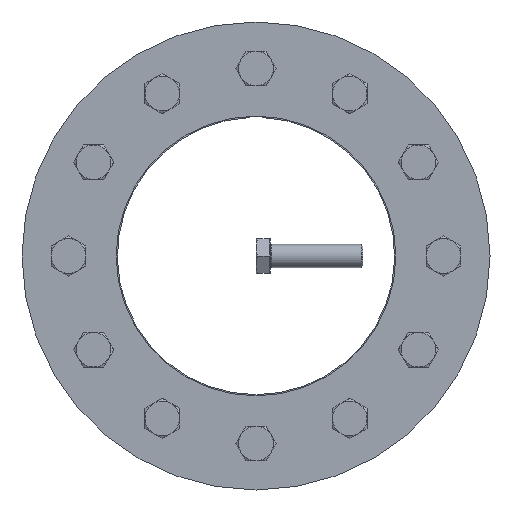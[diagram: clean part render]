
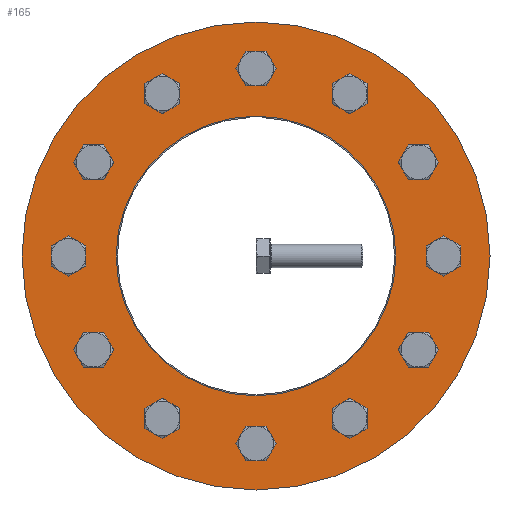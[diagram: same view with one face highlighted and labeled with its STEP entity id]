
A CAD part, front view. The second image highlights one B-rep face of the part: STEP entity #165.
In plain terms, the highlighted planar face has unit normal (0, -1, 0).
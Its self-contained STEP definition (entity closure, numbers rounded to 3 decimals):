
#165 = ADVANCED_FACE( '', ( #396, #397, #398, #399, #400, #401, #402, #403, #404, #405, #406, #407, #408, #409 ), #410, .F. );
#396 = FACE_BOUND( '', #657, .T. );
#397 = FACE_BOUND( '', #658, .T. );
#398 = FACE_BOUND( '', #659, .T. );
#399 = FACE_BOUND( '', #660, .T. );
#400 = FACE_BOUND( '', #661, .T. );
#401 = FACE_BOUND( '', #662, .T. );
#402 = FACE_BOUND( '', #663, .T. );
#403 = FACE_OUTER_BOUND( '', #664, .T. );
#404 = FACE_BOUND( '', #665, .T. );
#405 = FACE_BOUND( '', #666, .T. );
#406 = FACE_BOUND( '', #667, .T. );
#407 = FACE_BOUND( '', #668, .T. );
#408 = FACE_BOUND( '', #669, .T. );
#409 = FACE_BOUND( '', #670, .T. );
#410 = PLANE( '', #671 );
#657 = EDGE_LOOP( '', ( #1064 ) );
#658 = EDGE_LOOP( '', ( #1065 ) );
#659 = EDGE_LOOP( '', ( #1066 ) );
#660 = EDGE_LOOP( '', ( #1067 ) );
#661 = EDGE_LOOP( '', ( #1068 ) );
#662 = EDGE_LOOP( '', ( #1069 ) );
#663 = EDGE_LOOP( '', ( #1070 ) );
#664 = EDGE_LOOP( '', ( #1071 ) );
#665 = EDGE_LOOP( '', ( #1072 ) );
#666 = EDGE_LOOP( '', ( #1073 ) );
#667 = EDGE_LOOP( '', ( #1074 ) );
#668 = EDGE_LOOP( '', ( #1075 ) );
#669 = EDGE_LOOP( '', ( #1076 ) );
#670 = EDGE_LOOP( '', ( #1077 ) );
#671 = AXIS2_PLACEMENT_3D( '', #1078, #1079, #1080 );
#1064 = ORIENTED_EDGE( '', *, *, #1307, .T. );
#1065 = ORIENTED_EDGE( '', *, *, #1246, .T. );
#1066 = ORIENTED_EDGE( '', *, *, #1231, .T. );
#1067 = ORIENTED_EDGE( '', *, *, #1268, .T. );
#1068 = ORIENTED_EDGE( '', *, *, #1254, .T. );
#1069 = ORIENTED_EDGE( '', *, *, #1313, .T. );
#1070 = ORIENTED_EDGE( '', *, *, #1330, .F. );
#1071 = ORIENTED_EDGE( '', *, *, #1271, .T. );
#1072 = ORIENTED_EDGE( '', *, *, #1249, .T. );
#1073 = ORIENTED_EDGE( '', *, *, #1214, .T. );
#1074 = ORIENTED_EDGE( '', *, *, #1289, .T. );
#1075 = ORIENTED_EDGE( '', *, *, #1310, .T. );
#1076 = ORIENTED_EDGE( '', *, *, #1265, .T. );
#1077 = ORIENTED_EDGE( '', *, *, #1301, .T. );
#1078 = CARTESIAN_POINT( '', ( 0., -54.5, 202.5 ) );
#1079 = DIRECTION( '', ( 0., 1., 0. ) );
#1080 = DIRECTION( '', ( 0., 0., 1. ) );
#1214 = EDGE_CURVE( '', #1422, #1422, #1423, .T. );
#1231 = EDGE_CURVE( '', #1454, #1454, #1455, .T. );
#1246 = EDGE_CURVE( '', #1479, #1479, #1480, .T. );
#1249 = EDGE_CURVE( '', #1484, #1484, #1485, .T. );
#1254 = EDGE_CURVE( '', #1492, #1492, #1493, .T. );
#1265 = EDGE_CURVE( '', #1510, #1510, #1511, .T. );
#1268 = EDGE_CURVE( '', #1515, #1515, #1516, .T. );
#1271 = EDGE_CURVE( '', #1520, #1520, #1521, .T. );
#1289 = EDGE_CURVE( '', #1550, #1550, #1551, .T. );
#1301 = EDGE_CURVE( '', #1569, #1569, #1570, .T. );
#1307 = EDGE_CURVE( '', #1578, #1578, #1579, .T. );
#1310 = EDGE_CURVE( '', #1582, #1582, #1583, .T. );
#1313 = EDGE_CURVE( '', #1586, #1586, #1587, .T. );
#1330 = EDGE_CURVE( '', #1606, #1606, #1607, .T. );
#1422 = VERTEX_POINT( '', #1821 );
#1423 = CIRCLE( '', #1822, 10. );
#1454 = VERTEX_POINT( '', #1853 );
#1455 = CIRCLE( '', #1854, 10. );
#1479 = VERTEX_POINT( '', #1889 );
#1480 = CIRCLE( '', #1890, 10. );
#1484 = VERTEX_POINT( '', #1894 );
#1485 = CIRCLE( '', #1895, 10. );
#1492 = VERTEX_POINT( '', #1902 );
#1493 = CIRCLE( '', #1903, 10. );
#1510 = VERTEX_POINT( '', #1924 );
#1511 = CIRCLE( '', #1925, 10. );
#1515 = VERTEX_POINT( '', #1929 );
#1516 = CIRCLE( '', #1930, 10. );
#1520 = VERTEX_POINT( '', #1934 );
#1521 = CIRCLE( '', #1935, 202.5 );
#1550 = VERTEX_POINT( '', #1966 );
#1551 = CIRCLE( '', #1967, 10. );
#1569 = VERTEX_POINT( '', #1986 );
#1570 = CIRCLE( '', #1987, 10. );
#1578 = VERTEX_POINT( '', #1996 );
#1579 = CIRCLE( '', #1997, 10. );
#1582 = VERTEX_POINT( '', #2000 );
#1583 = CIRCLE( '', #2001, 10. );
#1586 = VERTEX_POINT( '', #2004 );
#1587 = CIRCLE( '', #2005, 10. );
#1606 = VERTEX_POINT( '', #2029 );
#1607 = CIRCLE( '', #2030, 121. );
#1821 = CARTESIAN_POINT( '', ( 162.25, -54.5, -10. ) );
#1822 = AXIS2_PLACEMENT_3D( '', #2115, #2116, #2117 );
#1853 = CARTESIAN_POINT( '', ( -10., -54.5, -162.25 ) );
#1854 = AXIS2_PLACEMENT_3D( '', #2160, #2161, #2162 );
#1889 = CARTESIAN_POINT( '', ( -145.513, -54.5, -72.465 ) );
#1890 = AXIS2_PLACEMENT_3D( '', #2177, #2178, #2179 );
#1894 = CARTESIAN_POINT( '', ( 89.785, -54.5, 135.513 ) );
#1895 = AXIS2_PLACEMENT_3D( '', #2183, #2184, #2185 );
#1902 = CARTESIAN_POINT( '', ( 145.513, -54.5, 72.465 ) );
#1903 = AXIS2_PLACEMENT_3D( '', #2192, #2193, #2194 );
#1924 = CARTESIAN_POINT( '', ( -162.25, -54.5, 10. ) );
#1925 = AXIS2_PLACEMENT_3D( '', #2208, #2209, #2210 );
#1929 = CARTESIAN_POINT( '', ( 135.513, -54.5, -89.785 ) );
#1930 = AXIS2_PLACEMENT_3D( '', #2214, #2215, #2216 );
#1934 = CARTESIAN_POINT( '', ( 0., -54.5, -202.5 ) );
#1935 = AXIS2_PLACEMENT_3D( '', #2220, #2221, #2222 );
#1966 = CARTESIAN_POINT( '', ( 72.465, -54.5, -145.513 ) );
#1967 = AXIS2_PLACEMENT_3D( '', #2255, #2256, #2257 );
#1986 = CARTESIAN_POINT( '', ( -72.465, -54.5, 145.513 ) );
#1987 = AXIS2_PLACEMENT_3D( '', #2277, #2278, #2279 );
#1996 = CARTESIAN_POINT( '', ( -135.513, -54.5, 89.785 ) );
#1997 = AXIS2_PLACEMENT_3D( '', #2287, #2288, #2289 );
#2000 = CARTESIAN_POINT( '', ( -89.785, -54.5, -135.513 ) );
#2001 = AXIS2_PLACEMENT_3D( '', #2290, #2291, #2292 );
#2004 = CARTESIAN_POINT( '', ( 10., -54.5, 162.25 ) );
#2005 = AXIS2_PLACEMENT_3D( '', #2293, #2294, #2295 );
#2029 = CARTESIAN_POINT( '', ( 0., -54.5, -121. ) );
#2030 = AXIS2_PLACEMENT_3D( '', #2313, #2314, #2315 );
#2115 = CARTESIAN_POINT( '', ( 162.25, -54.5, 0. ) );
#2116 = DIRECTION( '', ( 0., 1., 0. ) );
#2117 = DIRECTION( '', ( 0., 0., -1. ) );
#2160 = CARTESIAN_POINT( '', ( 0., -54.5, -162.25 ) );
#2161 = DIRECTION( '', ( 0., 1., 0. ) );
#2162 = DIRECTION( '', ( -1., 0., 0. ) );
#2177 = CARTESIAN_POINT( '', ( -140.513, -54.5, -81.125 ) );
#2178 = DIRECTION( '', ( 0., 1., 0. ) );
#2179 = DIRECTION( '', ( -0.5, 0., 0.866 ) );
#2183 = CARTESIAN_POINT( '', ( 81.125, -54.5, 140.513 ) );
#2184 = DIRECTION( '', ( 0., 1., 0. ) );
#2185 = DIRECTION( '', ( 0.866, 0., -0.5 ) );
#2192 = CARTESIAN_POINT( '', ( 140.513, -54.5, 81.125 ) );
#2193 = DIRECTION( '', ( 0., 1., 0. ) );
#2194 = DIRECTION( '', ( 0.5, 0., -0.866 ) );
#2208 = CARTESIAN_POINT( '', ( -162.25, -54.5, 0. ) );
#2209 = DIRECTION( '', ( 0., 1., 0. ) );
#2210 = DIRECTION( '', ( 0., 0., 1. ) );
#2214 = CARTESIAN_POINT( '', ( 140.513, -54.5, -81.125 ) );
#2215 = DIRECTION( '', ( 0., 1., 0. ) );
#2216 = DIRECTION( '', ( -0.5, 0., -0.866 ) );
#2220 = CARTESIAN_POINT( '', ( 0., -54.5, 0. ) );
#2221 = DIRECTION( '', ( 0., -1., 0. ) );
#2222 = DIRECTION( '', ( 0., 0., -1. ) );
#2255 = CARTESIAN_POINT( '', ( 81.125, -54.5, -140.513 ) );
#2256 = DIRECTION( '', ( 0., 1., 0. ) );
#2257 = DIRECTION( '', ( -0.866, 0., -0.5 ) );
#2277 = CARTESIAN_POINT( '', ( -81.125, -54.5, 140.513 ) );
#2278 = DIRECTION( '', ( 0., 1., 0. ) );
#2279 = DIRECTION( '', ( 0.866, 0., 0.5 ) );
#2287 = CARTESIAN_POINT( '', ( -140.513, -54.5, 81.125 ) );
#2288 = DIRECTION( '', ( 0., 1., 0. ) );
#2289 = DIRECTION( '', ( 0.5, 0., 0.866 ) );
#2290 = CARTESIAN_POINT( '', ( -81.125, -54.5, -140.513 ) );
#2291 = DIRECTION( '', ( 0., 1., 0. ) );
#2292 = DIRECTION( '', ( -0.866, 0., 0.5 ) );
#2293 = CARTESIAN_POINT( '', ( 0., -54.5, 162.25 ) );
#2294 = DIRECTION( '', ( 0., 1., 0. ) );
#2295 = DIRECTION( '', ( 1., 0., 0. ) );
#2313 = CARTESIAN_POINT( '', ( 0., -54.5, 0. ) );
#2314 = DIRECTION( '', ( 0., -1., 0. ) );
#2315 = DIRECTION( '', ( 0., 0., -1. ) );
